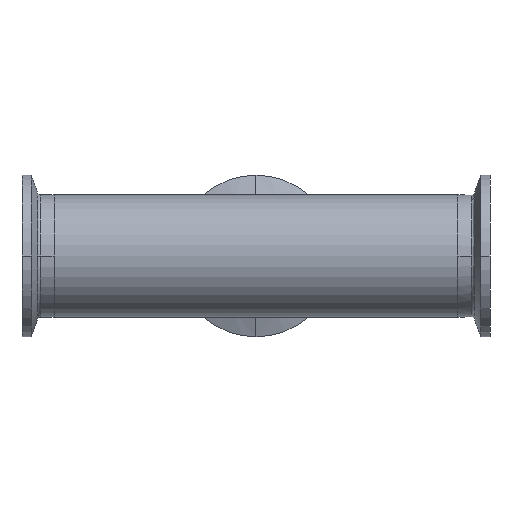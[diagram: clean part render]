
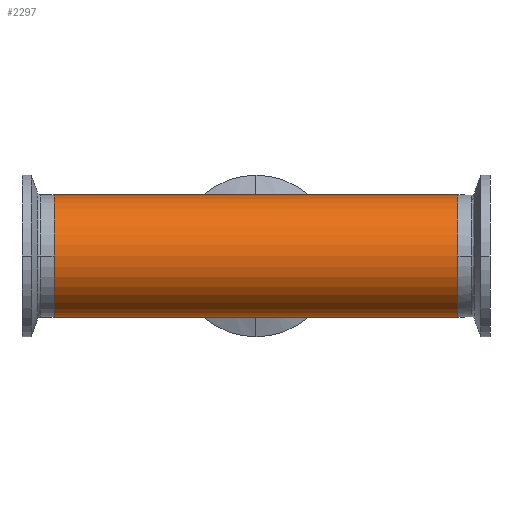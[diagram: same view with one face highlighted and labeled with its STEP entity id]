
A CAD part, front view. The second image highlights one B-rep face of the part: STEP entity #2297.
In plain terms, the highlighted cylindrical face has radius 19.05 mm (diameter 38.1 mm), a partial arc.
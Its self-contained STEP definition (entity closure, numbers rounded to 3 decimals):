
#172 = CARTESIAN_POINT ( 'NONE',  ( -63., 0., 19.05 ) ) ;
#193 = EDGE_LOOP ( 'NONE', ( #3333, #918, #2799, #1869 ) ) ;
#264 = EDGE_CURVE ( 'NONE', #1942, #1684, #1115, .T. ) ;
#300 = CARTESIAN_POINT ( 'NONE',  ( -63., 0., -19.05 ) ) ;
#309 = CARTESIAN_POINT ( 'NONE',  ( 116.882, 0., -19.05 ) ) ;
#416 = CARTESIAN_POINT ( 'NONE',  ( 63., 0., 19.05 ) ) ;
#517 = LINE ( 'NONE', #1983, #639 ) ;
#639 = VECTOR ( 'NONE', #2919, 1000. ) ;
#663 = AXIS2_PLACEMENT_3D ( 'NONE', #4253, #2056, #927 ) ;
#758 = AXIS2_PLACEMENT_3D ( 'NONE', #3749, #1570, #4145 ) ;
#918 = ORIENTED_EDGE ( 'NONE', *, *, #264, .T. ) ;
#927 = DIRECTION ( 'NONE',  ( 0., 0., 1. ) ) ;
#1111 = EDGE_CURVE ( 'NONE', #1684, #2589, #517, .T. ) ;
#1115 = CIRCLE ( 'NONE', #2670, 19.05 ) ;
#1252 = CYLINDRICAL_SURFACE ( 'NONE', #663, 19.05 ) ;
#1432 = DIRECTION ( 'NONE',  ( -1., 0., 0. ) ) ;
#1570 = DIRECTION ( 'NONE',  ( 1., 0., 0. ) ) ;
#1590 = VERTEX_POINT ( 'NONE', #300 ) ;
#1684 = VERTEX_POINT ( 'NONE', #416 ) ;
#1805 = DIRECTION ( 'NONE',  ( 0., 0., 1. ) ) ;
#1869 = ORIENTED_EDGE ( 'NONE', *, *, #2205, .T. ) ;
#1942 = VERTEX_POINT ( 'NONE', #3341 ) ;
#1983 = CARTESIAN_POINT ( 'NONE',  ( 116.882, 0., 19.05 ) ) ;
#2056 = DIRECTION ( 'NONE',  ( -1., 0., 0. ) ) ;
#2205 = EDGE_CURVE ( 'NONE', #2589, #1590, #3671, .T. ) ;
#2242 = FACE_OUTER_BOUND ( 'NONE', #193, .T. ) ;
#2297 = ADVANCED_FACE ( 'NONE', ( #2242 ), #1252, .T. ) ;
#2589 = VERTEX_POINT ( 'NONE', #172 ) ;
#2626 = VECTOR ( 'NONE', #2840, 1000. ) ;
#2670 = AXIS2_PLACEMENT_3D ( 'NONE', #3240, #1432, #1805 ) ;
#2799 = ORIENTED_EDGE ( 'NONE', *, *, #1111, .T. ) ;
#2840 = DIRECTION ( 'NONE',  ( -1., 0., 0. ) ) ;
#2919 = DIRECTION ( 'NONE',  ( -1., 0., 0. ) ) ;
#2982 = EDGE_CURVE ( 'NONE', #1942, #1590, #4465, .T. ) ;
#3240 = CARTESIAN_POINT ( 'NONE',  ( 63., 0., 0. ) ) ;
#3333 = ORIENTED_EDGE ( 'NONE', *, *, #2982, .F. ) ;
#3341 = CARTESIAN_POINT ( 'NONE',  ( 63., 0., -19.05 ) ) ;
#3671 = CIRCLE ( 'NONE', #758, 19.05 ) ;
#3749 = CARTESIAN_POINT ( 'NONE',  ( -63., 0., 0. ) ) ;
#4145 = DIRECTION ( 'NONE',  ( 0., 0., 1. ) ) ;
#4253 = CARTESIAN_POINT ( 'NONE',  ( 116.882, 0., 0. ) ) ;
#4465 = LINE ( 'NONE', #309, #2626 ) ;
